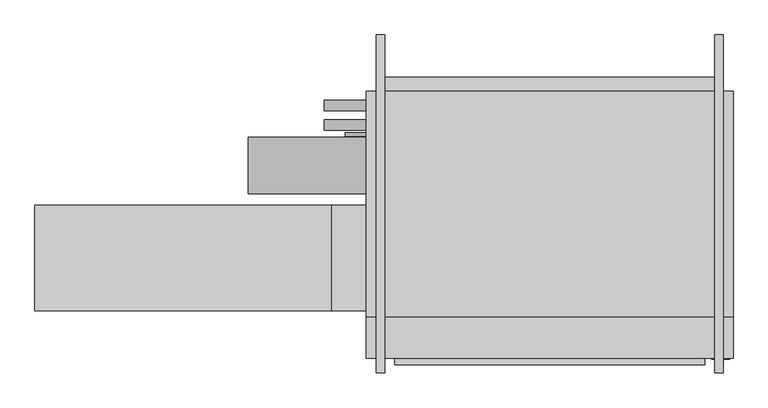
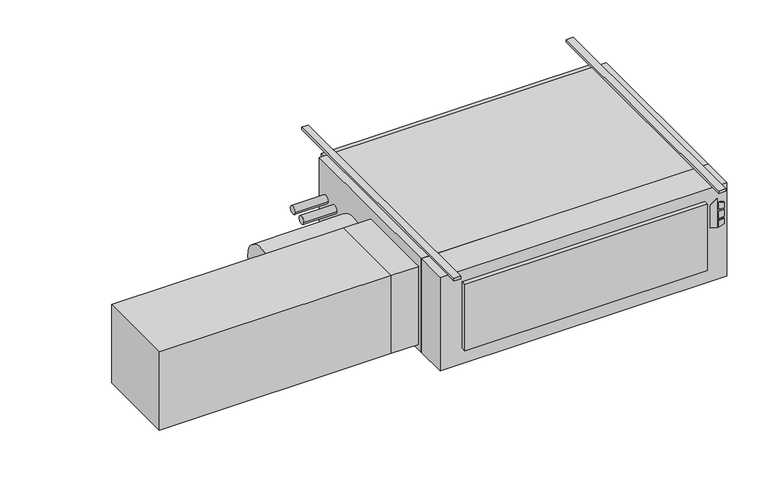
"""IFC4 building model written with IfcOpenShell, lengths in millimetres: proxy geometry."""

import ifcopenshell
import ifcopenshell.guid

model = None  # the IFC model being written
_history = None  # IfcOwnerHistory: only IFC2X3 demands one
_inside = {}  # id of a spatial element -> (the spatial element, [elements in it])
_under = {}  # id of a project, library or spatial element -> (it, [spatial elements below it])
_declared = {}  # id of a project -> (the project, [libraries it declares])
_typed = {}  # id of a type object -> (the type object, [elements of that type])
_made_of = {}  # id of a material, layer set ... -> (it, [elements and type objects made of it])


def new_model(schema):
    """Start an empty IFC model of exactly this schema.

    Asked for "IFC4X3", IfcOpenShell would pick the latest addendum, in which some entities
    have other attributes; the version numbers below select the first issue.
    IFC2X3 requires an IfcOwnerHistory on every rooted entity: one is made here for all.
    """
    global model, _history
    if schema == "IFC4X3":
        model = ifcopenshell.file(schema_version=(4, 3, 0, 0))
    else:
        model = ifcopenshell.file(schema=schema)
    _inside.clear()
    _under.clear()
    _declared.clear()
    _typed.clear()
    _made_of.clear()
    _history = None
    if model.schema == "IFC2X3":
        org = make("IfcOrganization", Name="unknown")
        user = make(
            "IfcPersonAndOrganization",
            ThePerson=make("IfcPerson", FamilyName="unknown"),
            TheOrganization=org,
        )
        app = make(
            "IfcApplication",
            ApplicationDeveloper=org,
            Version="unknown",
            ApplicationFullName="unknown",
            ApplicationIdentifier="unknown",
        )
        _history = make(
            "IfcOwnerHistory",
            OwningUser=user,
            OwningApplication=app,
            ChangeAction="ADDED",
            CreationDate=0,
        )
    return model


def make(cls, **values):
    """One entity of the class cls with the attributes given. An attribute that is None is left unset."""
    return model.create_entity(
        cls, **{name: value for name, value in values.items() if value is not None}
    )


def rooted(cls, **values):
    """An entity with a GlobalId (a new one), such as an element, a storey or a relation."""
    return make(cls, GlobalId=ifcopenshell.guid.new(), OwnerHistory=_history, **values)


def si_unit(unit_type, name, prefix=None):
    """IfcSIUnit, for example si_unit("LENGTHUNIT", "METRE", prefix="MILLI")."""
    return make("IfcSIUnit", UnitType=unit_type, Prefix=prefix, Name=name)


def assignment(units):
    """IfcUnitAssignment: the units of a project."""
    return None if units is None else make("IfcUnitAssignment", Units=units)


def point(xyz):
    """IfcCartesianPoint."""
    return None if xyz is None else make("IfcCartesianPoint", Coordinates=xyz)


def direction(xyz):
    """IfcDirection."""
    return None if xyz is None else make("IfcDirection", DirectionRatios=xyz)


def frame(location, z_axis=None, x_axis=None):
    """IfcAxis2Placement3D, a coordinate frame: its origin and axes. An axis left out is left unset."""
    return make(
        "IfcAxis2Placement3D",
        Location=point(location),
        Axis=direction(z_axis),
        RefDirection=direction(x_axis),
    )


def frame_2d(location, x_axis=None):
    """IfcAxis2Placement2D, a coordinate frame in the plane: its origin and x axis."""
    return make(
        "IfcAxis2Placement2D", Location=point(location), RefDirection=direction(x_axis)
    )


def origin():
    """The frame at (0, 0, 0) with its axes left unset."""
    return frame((0.0, 0.0, 0.0))


def origin_with_axes():
    """The frame at (0, 0, 0) with the z axis (0, 0, 1) and the x axis (1, 0, 0) written out."""
    return frame((0.0, 0.0, 0.0), z_axis=(0.0, 0.0, 1.0), x_axis=(1.0, 0.0, 0.0))


def place(relative_to, where):
    """IfcLocalPlacement: puts the frame where relative to a parent placement (None: the world)."""
    return make(
        "IfcLocalPlacement", PlacementRelTo=relative_to, RelativePlacement=where
    )


def context(
    kind, dimensions, precision=None, world=None, true_north=None, identifier=None
):
    """IfcGeometricRepresentationContext, for example the 3D "Model" context."""
    return make(
        "IfcGeometricRepresentationContext",
        ContextIdentifier=identifier,
        ContextType=kind,
        CoordinateSpaceDimension=dimensions,
        Precision=precision,
        WorldCoordinateSystem=world,
        TrueNorth=true_north,
    )


def project(units=None, contexts=None):
    """IfcProject with its units and contexts."""
    return rooted(
        "IfcProject",
        Name="project",
        RepresentationContexts=contexts,
        UnitsInContext=assignment(units),
    )


def spatial(cls, under=None, at=None, **own):
    """A site, building, storey or space (cls), placed at a placement, below another one or the project."""
    s = rooted(cls, ObjectPlacement=at, **own)
    if under is not None:
        _under.setdefault(under.id(), (under, []))[1].append(s)
    return s


def polyline(points):
    """IfcPolyline through the points."""
    return make("IfcPolyline", Points=[point(p) for p in points])


def circle_curve(where, radius):
    """IfcCircle in the frame where."""
    return make("IfcCircle", Position=where, Radius=radius)


def trimmed(basis, trim1, trim2, sense, master):
    """IfcTrimmedCurve: the piece of a basis curve between two trims."""
    return make(
        "IfcTrimmedCurve",
        BasisCurve=basis,
        Trim1=trim1,
        Trim2=trim2,
        SenseAgreement=sense,
        MasterRepresentation=master,
    )


def segment(curve, same_sense, transition):
    """IfcCompositeCurveSegment."""
    return make(
        "IfcCompositeCurveSegment",
        Transition=transition,
        SameSense=same_sense,
        ParentCurve=curve,
    )


def composite_curve(segments, self_intersect=None):
    """IfcCompositeCurve: segments joined end to end."""
    return make("IfcCompositeCurve", Segments=segments, SelfIntersect=self_intersect)


def outline(outer, holes=None, kind="AREA"):
    """IfcArbitraryClosedProfileDef: a profile drawn as a closed curve; with holes, ...WithVoids."""
    if holes is None:
        return make("IfcArbitraryClosedProfileDef", ProfileType=kind, OuterCurve=outer)
    return make(
        "IfcArbitraryProfileDefWithVoids",
        ProfileType=kind,
        OuterCurve=outer,
        InnerCurves=holes,
    )


def extrude(swept, where, along, depth):
    """IfcExtrudedAreaSolid: the profile swept, set in the frame where, extruded along a direction by depth."""
    return make(
        "IfcExtrudedAreaSolid",
        SweptArea=swept,
        Position=where,
        ExtrudedDirection=direction(along),
        Depth=depth,
    )


def shape(context_of_items, identifier, shape_type, items):
    """IfcShapeRepresentation: the items that make up one representation, for example the "Body"."""
    return make(
        "IfcShapeRepresentation",
        ContextOfItems=context_of_items,
        RepresentationIdentifier=identifier,
        RepresentationType=shape_type,
        Items=items,
    )


def source(mapping_origin, context_of_items, identifier, shape_type, items):
    """IfcRepresentationMap: a shape defined once, which mapped items show again and again."""
    return make(
        "IfcRepresentationMap",
        MappingOrigin=mapping_origin,
        MappedRepresentation=shape(context_of_items, identifier, shape_type, items),
    )


def transform(
    local_origin,
    x_axis=None,
    y_axis=None,
    z_axis=None,
    scale=None,
    scale2=None,
    scale3=None,
    uniform=True,
):
    """IfcCartesianTransformationOperator3D, or its non-uniform kind. x_axis, y_axis, z_axis: its Axis1, 2, 3."""
    if uniform:
        return make(
            "IfcCartesianTransformationOperator3D",
            Axis1=direction(x_axis),
            Axis2=direction(y_axis),
            LocalOrigin=point(local_origin),
            Scale=scale,
            Axis3=direction(z_axis),
        )
    return make(
        "IfcCartesianTransformationOperator3DnonUniform",
        Axis1=direction(x_axis),
        Axis2=direction(y_axis),
        LocalOrigin=point(local_origin),
        Scale=scale,
        Axis3=direction(z_axis),
        Scale2=scale2,
        Scale3=scale3,
    )


def mapped(mapping_source, mapping_target):
    """IfcMappedItem: shows the shape of a source again, moved by a transform."""
    return make(
        "IfcMappedItem", MappingSource=mapping_source, MappingTarget=mapping_target
    )


def made_of(thing, what):
    """Note that an element or type object is made of a material, layer set ...; save() writes the relation."""
    if what is not None:
        _made_of.setdefault(what.id(), (what, []))[1].append(thing)
    return thing


def element(
    cls,
    number,
    at=None,
    inside=None,
    cuts=None,
    type_object=None,
    material=None,
    context=None,
    identifier="Body",
    shape_type=None,
    held_by="IfcProductDefinitionShape",
    body=None,
    shapes=None,
    **own,
):
    """One element of the class cls, such as IfcWall. Its Tag is "e" and its number.

    at: its placement. inside: the storey or other place that contains it. cuts: it is an
    opening in that element (IfcRelVoidsElement). A single representation is given by context,
    identifier, shape_type and body (its items); several are given by shapes. held_by: the class
    of the entity that holds the representations. save() writes the other relations.
    """
    e = rooted(cls, Tag="e%d" % number, ObjectPlacement=at, **own)
    if body is not None:
        shapes = [shape(context, identifier, shape_type, body)]
    if shapes is not None:
        e.Representation = make(held_by, Representations=shapes)
    if inside is not None:
        _inside.setdefault(inside.id(), (inside, []))[1].append(e)
    if cuts is not None:
        rooted(
            "IfcRelVoidsElement", RelatingBuildingElement=cuts, RelatedOpeningElement=e
        )
    if type_object is not None:
        _typed.setdefault(type_object.id(), (type_object, []))[1].append(e)
    return made_of(e, material)


def aggregate(whole, parts):
    """IfcRelAggregates: a whole, such as a stair, and the parts it consists of."""
    return rooted("IfcRelAggregates", RelatingObject=whole, RelatedObjects=parts)


def save(model, path):
    """Write the relations noted so far, then the file.

    IfcRelAggregates (storeys below a building ...), IfcRelContainedInSpatialStructure (elements
    in a storey), IfcRelDefinesByType, IfcRelAssociatesMaterial and IfcRelDeclares: one each for
    every whole, place, type object, material and project.
    """
    for whole, parts in _under.values():
        aggregate(whole, parts)
    for where, things in _inside.values():
        rooted(
            "IfcRelContainedInSpatialStructure",
            RelatedElements=things,
            RelatingStructure=where,
        )
    for kind, things in _typed.values():
        rooted("IfcRelDefinesByType", RelatedObjects=things, RelatingType=kind)
    for what, things in _made_of.values():
        rooted("IfcRelAssociatesMaterial", RelatedObjects=things, RelatingMaterial=what)
    for by, libraries in _declared.values():
        rooted("IfcRelDeclares", RelatingContext=by, RelatedDefinitions=libraries)
    model.write(path)


def mechanical_equipment_bf31da1a(model_context):
    return source(origin(), model_context, "Body", "SweptSolid", [
        extrude(outline(polyline([(-193.2519297, 735.0868862), (-203.2, 767.2602728), (-61.0290756, 767.2602728), (-84.0510817, 735.0868862), (-193.2519297, 735.0868862)])), frame((0.0, -797.052, 0.0), z_axis=(0.0, 1.0, 0.0), x_axis=(0.0, 0.0, 1.0)), (0.0, 0.0, 1.0), 3.175),
        extrude(outline(polyline([(-114.2526443, 774.0186058), (-117.4550368, 800.1), (-88.2261958, 800.1), (-80.1617807, 774.0186058), (-114.2526443, 774.0186058)])), frame((0.0, -797.052, 0.0), z_axis=(0.0, 1.0, 0.0), x_axis=(0.0, 0.0, 1.0)), (0.0, 0.0, 1.0), 3.175),
        extrude(outline(polyline([(-166.1161712, 800.1), (-169.7816721, 774.0186058), (-203.2, 774.0186058), (-194.5657628, 800.1), (-166.1161712, 800.1)])), frame((0.0, -797.052, 0.0), z_axis=(0.0, 1.0, 0.0), x_axis=(0.0, 0.0, 1.0)), (0.0, 0.0, 1.0), 3.175),
        extrude(outline(polyline([(-126.8010097, 800.1), (-124.5191834, 774.0186058), (-160.4567319, 774.0186058), (-157.7154669, 800.1), (-126.8010097, 800.1)])), frame((0.0, -797.052, 0.0), z_axis=(0.0, 1.0, 0.0), x_axis=(0.0, 0.0, 1.0)), (0.0, 0.0, 1.0), 3.175),
        extrude(outline(polyline([(812.8, -793.877), (-508.0, -793.877), (-508.0, -644.525), (812.8, -644.525), (812.8, -793.877)])), frame((0.0, 0.0, -457.2), z_axis=(0.0, 0.0, 1.0), x_axis=(1.0, 0.0, 0.0)), (0.0, 0.0, 1.0), 457.2),
        extrude(outline(polyline([(711.2, -816.229), (-406.4, -816.229), (-406.4, -793.877), (711.2, -793.877), (711.2, -816.229)])), frame((0.0, 0.0, -381.0), z_axis=(0.0, 0.0, 1.0), x_axis=(1.0, 0.0, 0.0)), (0.0, 0.0, 1.0), 323.85),
        extrude(outline(polyline([(-1701.8, -622.3), (-1701.8, -241.3), (-635.0, -241.3), (-635.0, -622.3), (-1701.8, -622.3)])), frame((0.0, 0.0, -431.8), z_axis=(0.0, 0.0, 1.0), x_axis=(1.0, 0.0, 0.0)), (0.0, 0.0, 1.0), 381.0),
        extrude(outline(polyline([(-508.0, -241.3), (-508.0, -622.3), (-635.0, -622.3), (-635.0, -241.3), (-508.0, -241.3)])), frame((0.0, 0.0, -431.8), z_axis=(0.0, 0.0, 1.0), x_axis=(1.0, 0.0, 0.0)), (0.0, 0.0, 1.0), 381.0),
        extrude(outline(composite_curve([segment(trimmed(circle_curve(frame_2d((-98.4896516, -228.6360165)), 101.6), [point((-200.0896516, -228.6360165))], [point((3.1103484, -228.6360165))], False, "CARTESIAN"), True, "CONTINUOUS"), segment(trimmed(circle_curve(frame_2d((-98.4896516, -228.6360165)), 101.6), [point((3.1103484, -228.6360165))], [point((-200.0896516, -228.6360165))], False, "CARTESIAN"), True, "CONTINUOUS")], self_intersect=False)), frame((-933.45, 0.0, 0.0), z_axis=(1.0, 0.0, 0.0), x_axis=(0.0, 1.0, 0.0)), (0.0, 0.0, 1.0), 425.45),
        extrude(outline(composite_curve([segment(trimmed(circle_curve(frame_2d((47.625, -177.8)), 19.05), [point((28.575, -177.8))], [point((66.675, -177.8))], False, "CARTESIAN"), True, "CONTINUOUS"), segment(trimmed(circle_curve(frame_2d((47.625, -177.8)), 19.05), [point((66.675, -177.8))], [point((28.575, -177.8))], False, "CARTESIAN"), True, "CONTINUOUS")], self_intersect=False)), frame((-660.4, 0.0, 0.0), z_axis=(1.0, 0.0, 0.0), x_axis=(0.0, 1.0, 0.0)), (0.0, 0.0, 1.0), 152.4),
        extrude(outline(composite_curve([segment(trimmed(circle_curve(frame_2d((117.475, -171.45)), 19.05), [point((98.425, -171.45))], [point((136.525, -171.45))], False, "CARTESIAN"), True, "CONTINUOUS"), segment(trimmed(circle_curve(frame_2d((117.475, -171.45)), 19.05), [point((136.525, -171.45))], [point((98.425, -171.45))], False, "CARTESIAN"), True, "CONTINUOUS")], self_intersect=False)), frame((-660.4, 0.0, 0.0), z_axis=(1.0, 0.0, 0.0), x_axis=(0.0, 1.0, 0.0)), (0.0, 0.0, 1.0), 152.4),
        extrude(outline(composite_curve([segment(trimmed(circle_curve(frame_2d((12.7, -409.575)), 6.35), [point((6.35, -409.575))], [point((19.05, -409.575))], False, "CARTESIAN"), True, "CONTINUOUS"), segment(trimmed(circle_curve(frame_2d((12.7, -409.575)), 6.35), [point((19.05, -409.575))], [point((6.35, -409.575))], False, "CARTESIAN"), True, "CONTINUOUS")], self_intersect=False)), frame((-584.2, 0.0, 0.0), z_axis=(1.0, 0.0, 0.0), x_axis=(0.0, 1.0, 0.0)), (0.0, 0.0, 1.0), 76.2),
        extrude(outline(polyline([(812.8, 168.275), (812.8, -644.525), (-508.0, -644.525), (-508.0, 168.275), (812.8, 168.275)])), frame((0.0, 0.0, -457.2), z_axis=(0.0, 0.0, 1.0), x_axis=(1.0, 0.0, 0.0)), (0.0, 0.0, 1.0), 457.2),
        extrude(outline(polyline([(-469.9, 219.075), (774.7, 219.075), (774.7, 168.275), (-469.9, 168.275), (-469.9, 219.075)])), frame((0.0, 0.0, -381.0), z_axis=(0.0, 0.0, 1.0), x_axis=(1.0, 0.0, 0.0)), (0.0, 0.0, 1.0), 355.6),
        extrude(outline(polyline([(-441.325, 371.475), (-441.325, -844.677), (-473.075, -844.677), (-473.075, 371.475), (-441.325, 371.475)])), origin_with_axes(), (0.0, 0.0, 1.0), 12.7),
        extrude(outline(polyline([(777.875, 371.475), (777.875, -844.677), (746.125, -844.677), (746.125, 371.475), (777.875, 371.475)])), origin_with_axes(), (0.0, 0.0, 1.0), 12.7),
    ])


if __name__ == "__main__":
    model = new_model("IFC4")
    model_context = context("Model", 3, world=origin())
    ifc_project = project(units=[si_unit("LENGTHUNIT", "METRE", prefix="MILLI")], contexts=[model_context])
    site = spatial("IfcSite", under=ifc_project)
    building = spatial("IfcBuilding", under=site)
    placement = place(None, origin())
    mechanical_equipment_shape = mechanical_equipment_bf31da1a(model_context)
    element("IfcBuildingElementProxy", 1, Name="High_Capacity_Horizontal_Cabinet_Fan_Coil_Unit_-_HTY_-_IEC_-_2 Pipe, Elec Heat_LH Side_2022 : Size 18 - 277v/60Hz/1Ph - 8/0 Coil 10.0kW - 8\" AirIn", ObjectType="High_Capacity_Horizontal_Cabinet_Fan_Coil_Unit_-_HTY_-_IEC_-_2 Pipe, Elec Heat_LH Side_2022 : Size 18 - 277v/60Hz/1Ph - 8/0 Coil 10.0kW - 8\" AirIn", at=placement, inside=building, context=model_context, shape_type="MappedRepresentation", body=[
        mapped(mechanical_equipment_shape, transform((0.0, 0.0, 0.0), x_axis=(1.0, 0.0, 0.0), y_axis=(0.0, 1.0, 0.0), z_axis=(0.0, 0.0, 1.0))),
    ])
    save(model, "model.ifc")
